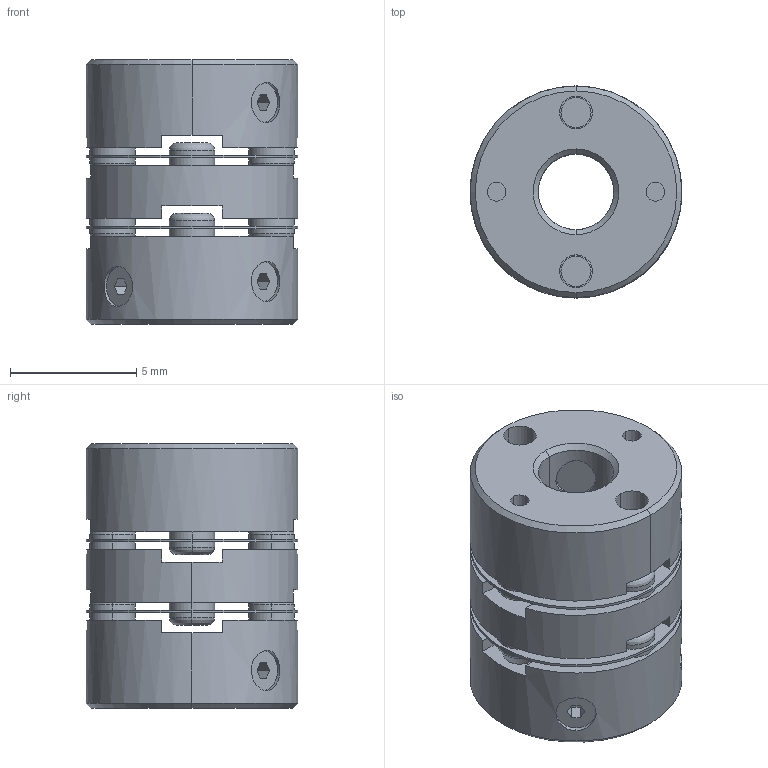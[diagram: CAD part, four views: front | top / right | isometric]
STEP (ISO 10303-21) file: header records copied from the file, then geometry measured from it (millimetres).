
FILE_DESCRIPTION((''),'2;1');
FILE_NAME('LAD-8.4-3×3.stp','2015-10-05T13:42:37',(''),(''),'AutoCAD STEP 2000i','AutoCAD 2000i',', , ');
FILE_SCHEMA(('CONFIG_CONTROL_DESIGN'));
Length unit declared in the file: millimetre
Products named in the file (7): LAD-8.4-3×3; 忣兜1; ﾊﾌﾞφ3-2; ﾊﾌﾞφ3-1; ﾊﾌﾞφ3; SET-M1.6亊2.5; LAD板ﾊﾞﾈ部
Assembly tree (7 placements, depth 2):
  LAD-8.4-3×3
    忣兜1
    ﾊﾌﾞφ3-2
    ﾊﾌﾞφ3-1
    ﾊﾌﾞφ3  x2
    SET-M1.6亊2.5
    LAD板ﾊﾞﾈ部
Bounding box: 8.4 x 8.4 x 10.5 mm (x, y, z)
Volume: 400.8 mm3; surface area: 830.6 mm2
Topology: 1 solids, 1 shells, 194 faces, 489 edges, 337 vertices
Faces by surface type: plane 86, cylinder 84, torus 16, cone 8
Entity records: 6330 total; most frequent: CARTESIAN_POINT 1286, DIRECTION 1098, ORIENTED_EDGE 944, EDGE_CURVE 472, AXIS2_PLACEMENT_3D 434, VERTEX_POINT 308, EDGE_LOOP 248, CIRCLE 232
